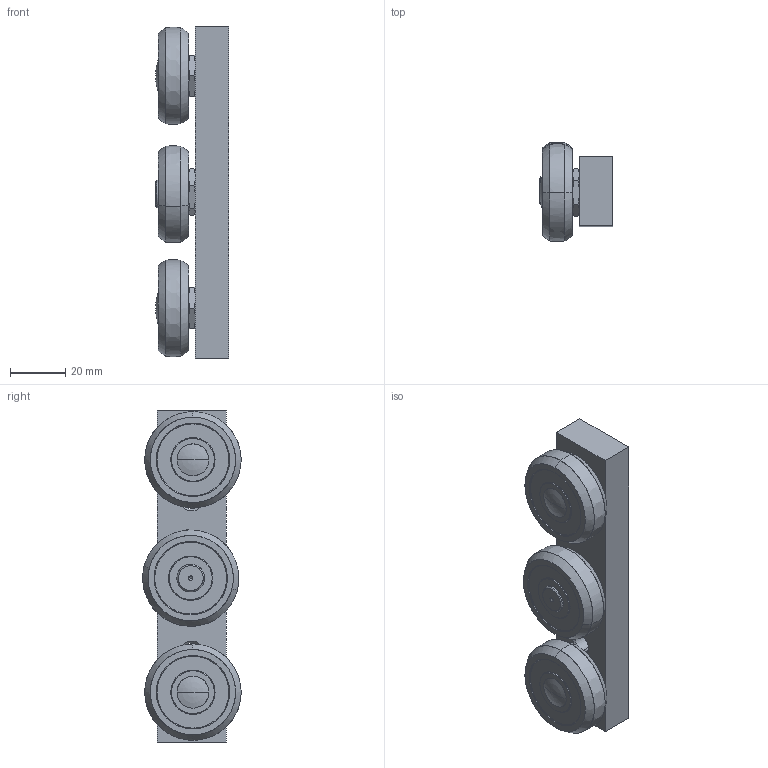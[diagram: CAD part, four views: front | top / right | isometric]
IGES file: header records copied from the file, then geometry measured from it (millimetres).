
Start section: SolidWorks IGES file using analytic representation for surfaces
Global section: file name: C:\Users\ianosborn\Desktop\L1971_v2\L1971.SBU_v2\L1971.SBU_v2_20260120_IGES\L1971.45U-120.igs; native system: SolidWorks 2019; preprocessor: SolidWorks 2019; author: IanOsborn; date: 260121.122923; units: millimetre
Bounding box: 26.5 x 35.63 x 120 mm (x, y, z)
Surface area: 21393.1 mm2 (no closed solid volume)
Topology: 0 solids, 0 shells, 271 faces, 3714 edges, 3700 vertices
Faces by surface type: revolution 161, bspline 110
